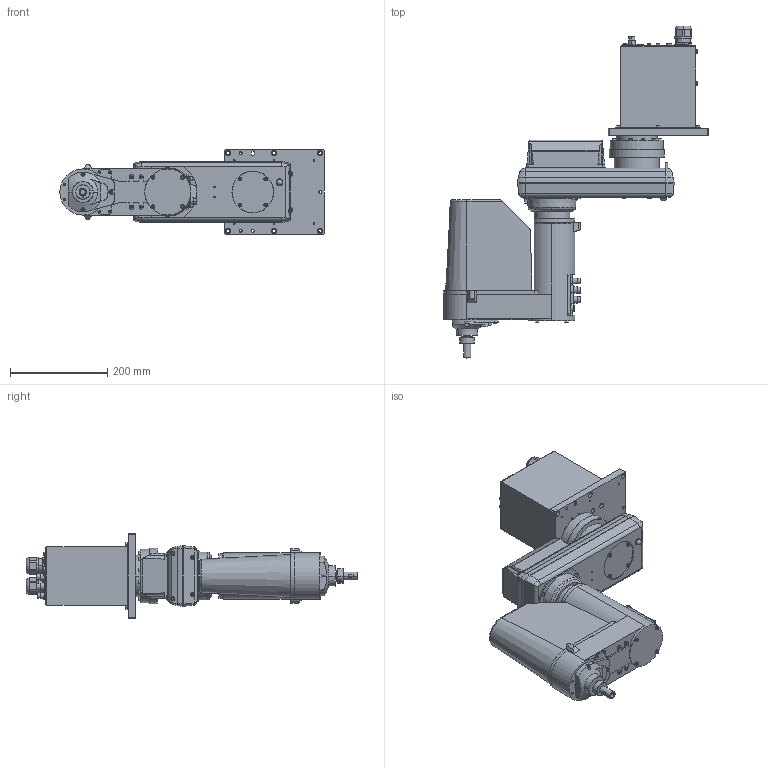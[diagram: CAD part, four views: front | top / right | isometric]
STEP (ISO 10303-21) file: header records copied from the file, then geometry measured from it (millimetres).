
FILE_DESCRIPTION( ( '' ), '1' );
FILE_NAME( '//partserver001.servicenet/client_exchange/iodir/jobs/output/wkb20659507_no0/STEP/rs3_351s_2_03.stp', '2009-12-04T09:25:27', ( '' ), ( '' ), ' ', ' ', ' ' );
FILE_SCHEMA( ( 'CONFIG_CONTROL_DESIGN' ) );
Length unit declared in the file: millimetre
Products named in the file (4): 1; 2; 3; 4
Bounding box: 544.5 x 684 x 175 mm (x, y, z)
Volume: 12417371.5 mm3; surface area: 664680.8 mm2
Topology: 4 solids, 4 shells, 1841 faces, 4516 edges, 2901 vertices
Faces by surface type: plane 929, cylinder 524, cone 245, torus 142, sphere 1
Entity records: 55233 total; most frequent: CARTESIAN_POINT 10175, DIRECTION 9899, ORIENTED_EDGE 8968, EDGE_CURVE 4484, AXIS2_PLACEMENT_3D 3654, VERTEX_POINT 2901, LINE 2591, VECTOR 2591
